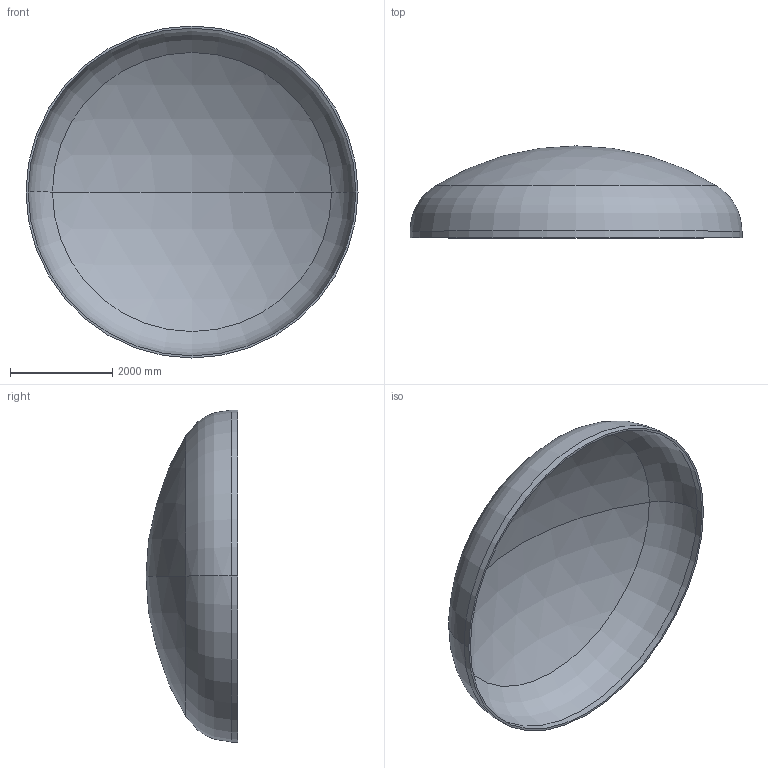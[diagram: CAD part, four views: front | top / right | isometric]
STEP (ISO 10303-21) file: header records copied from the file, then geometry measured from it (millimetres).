
FILE_DESCRIPTION (( 'STEP AP203' ), '1' );
FILE_NAME ('DIN 28013 Korbbogenform_-_Boden DIN 28013 - 6500 x 130 - I - s=43.step', '2016-07-04T10:41:59', ( '' ), ( '' ), 'SwSTEP 2.0', 'SolidWorks 2013', '' );
FILE_SCHEMA (( 'CONFIG_CONTROL_DESIGN' ));
Length unit declared in the file: millimetre
Products named in the file (1): DIN 28013 Korbbogenform_-_Boden DIN 28013 - 6500 x 130 - I - s=43
Bounding box: 6500 x 1799.61 x 6500 mm (x, y, z)
Volume: 2072031826 mm3; surface area: 97249674.8 mm2
Topology: 1 solids, 1 shells, 13 faces, 24 edges, 14 vertices
Faces by surface type: torus 4, cylinder 4, sphere 4, plane 1
Entity records: 407 total; most frequent: DIRECTION 72, CARTESIAN_POINT 52, ORIENTED_EDGE 48, AXIS2_PLACEMENT_3D 34, EDGE_CURVE 24, CIRCLE 20, VERTEX_POINT 14, EDGE_LOOP 14
